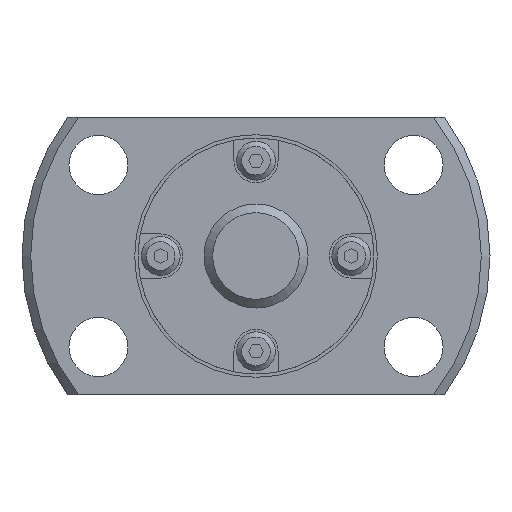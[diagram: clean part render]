
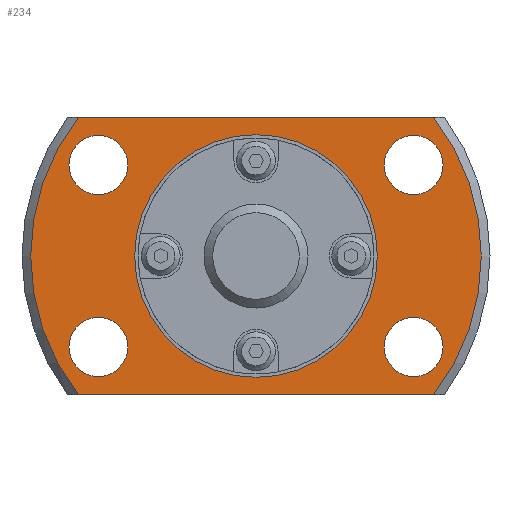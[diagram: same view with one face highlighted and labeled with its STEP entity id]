
A CAD part, left-side view. The second image highlights one B-rep face of the part: STEP entity #234.
In plain terms, the highlighted planar face has unit normal (-1, 0, 0).
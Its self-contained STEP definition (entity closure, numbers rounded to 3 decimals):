
#234 = ADVANCED_FACE( '', ( #427, #428, #429, #430, #431, #432 ), #433, .F. );
#427 = FACE_OUTER_BOUND( '', #679, .T. );
#428 = FACE_BOUND( '', #680, .T. );
#429 = FACE_BOUND( '', #681, .T. );
#430 = FACE_BOUND( '', #682, .T. );
#431 = FACE_BOUND( '', #683, .T. );
#432 = FACE_BOUND( '', #684, .T. );
#433 = PLANE( '', #685 );
#679 = EDGE_LOOP( '', ( #1211, #1212, #1213, #1214 ) );
#680 = EDGE_LOOP( '', ( #1215 ) );
#681 = EDGE_LOOP( '', ( #1216 ) );
#682 = EDGE_LOOP( '', ( #1217 ) );
#683 = EDGE_LOOP( '', ( #1218 ) );
#684 = EDGE_LOOP( '', ( #1219 ) );
#685 = AXIS2_PLACEMENT_3D( '', #1220, #1221, #1222 );
#1211 = ORIENTED_EDGE( '', *, *, #1500, .F. );
#1212 = ORIENTED_EDGE( '', *, *, #1625, .T. );
#1213 = ORIENTED_EDGE( '', *, *, #1626, .F. );
#1214 = ORIENTED_EDGE( '', *, *, #1499, .T. );
#1215 = ORIENTED_EDGE( '', *, *, #1612, .T. );
#1216 = ORIENTED_EDGE( '', *, *, #1614, .T. );
#1217 = ORIENTED_EDGE( '', *, *, #1616, .T. );
#1218 = ORIENTED_EDGE( '', *, *, #1618, .T. );
#1219 = ORIENTED_EDGE( '', *, *, #1627, .T. );
#1220 = CARTESIAN_POINT( '', ( 8., 6.8, 0. ) );
#1221 = DIRECTION( '', ( 1., 0., 0. ) );
#1222 = DIRECTION( '', ( 0., 0., -1. ) );
#1499 = EDGE_CURVE( '', #1712, #1724, #1726, .T. );
#1500 = EDGE_CURVE( '', #1727, #1724, #1728, .T. );
#1612 = EDGE_CURVE( '', #1926, #1926, #1927, .T. );
#1614 = EDGE_CURVE( '', #1930, #1930, #1931, .T. );
#1616 = EDGE_CURVE( '', #1934, #1934, #1935, .T. );
#1618 = EDGE_CURVE( '', #1938, #1938, #1939, .T. );
#1625 = EDGE_CURVE( '', #1727, #1950, #1952, .T. );
#1626 = EDGE_CURVE( '', #1712, #1950, #1953, .T. );
#1627 = EDGE_CURVE( '', #1954, #1954, #1955, .T. );
#1712 = VERTEX_POINT( '', #2066 );
#1724 = VERTEX_POINT( '', #2090 );
#1726 = LINE( '', #2095, #2096 );
#1727 = VERTEX_POINT( '', #2097 );
#1728 = CIRCLE( '', #2098, 13. );
#1926 = VERTEX_POINT( '', #2388 );
#1927 = CIRCLE( '', #2389, 1.7 );
#1930 = VERTEX_POINT( '', #2392 );
#1931 = CIRCLE( '', #2393, 1.7 );
#1934 = VERTEX_POINT( '', #2396 );
#1935 = CIRCLE( '', #2397, 1.7 );
#1938 = VERTEX_POINT( '', #2400 );
#1939 = CIRCLE( '', #2401, 1.7 );
#1950 = VERTEX_POINT( '', #2421 );
#1952 = LINE( '', #2426, #2427 );
#1953 = CIRCLE( '', #2428, 13. );
#1954 = VERTEX_POINT( '', #2429 );
#1955 = CIRCLE( '', #2430, 6.8 );
#2066 = CARTESIAN_POINT( '', ( 8., -10.247, 8. ) );
#2090 = CARTESIAN_POINT( '', ( 8., 10.247, 8. ) );
#2095 = CARTESIAN_POINT( '', ( 8., 6.8, 8. ) );
#2096 = VECTOR( '', #2562, 1000. );
#2097 = CARTESIAN_POINT( '', ( 8., 10.247, -8. ) );
#2098 = AXIS2_PLACEMENT_3D( '', #2563, #2564, #2565 );
#2388 = CARTESIAN_POINT( '', ( 8., -9.093, -6.95 ) );
#2389 = AXIS2_PLACEMENT_3D( '', #2718, #2719, #2720 );
#2392 = CARTESIAN_POINT( '', ( 8., -9.093, 3.55 ) );
#2393 = AXIS2_PLACEMENT_3D( '', #2724, #2725, #2726 );
#2396 = CARTESIAN_POINT( '', ( 8., 9.093, -6.95 ) );
#2397 = AXIS2_PLACEMENT_3D( '', #2730, #2731, #2732 );
#2400 = CARTESIAN_POINT( '', ( 8., 9.093, 3.55 ) );
#2401 = AXIS2_PLACEMENT_3D( '', #2736, #2737, #2738 );
#2421 = CARTESIAN_POINT( '', ( 8., -10.247, -8. ) );
#2426 = CARTESIAN_POINT( '', ( 8., 6.8, -8. ) );
#2427 = VECTOR( '', #2742, 1000. );
#2428 = AXIS2_PLACEMENT_3D( '', #2743, #2744, #2745 );
#2429 = CARTESIAN_POINT( '', ( 8., 0., -6.8 ) );
#2430 = AXIS2_PLACEMENT_3D( '', #2746, #2747, #2748 );
#2562 = DIRECTION( '', ( 0., 1., 0. ) );
#2563 = CARTESIAN_POINT( '', ( 8., 0., 0. ) );
#2564 = DIRECTION( '', ( 1., 0., 0. ) );
#2565 = DIRECTION( '', ( 0., 0., -1. ) );
#2718 = CARTESIAN_POINT( '', ( 8., -9.093, -5.25 ) );
#2719 = DIRECTION( '', ( 1., 0., 0. ) );
#2720 = DIRECTION( '', ( 0., 0., -1. ) );
#2724 = CARTESIAN_POINT( '', ( 8., -9.093, 5.25 ) );
#2725 = DIRECTION( '', ( 1., 0., 0. ) );
#2726 = DIRECTION( '', ( 0., 0., -1. ) );
#2730 = CARTESIAN_POINT( '', ( 8., 9.093, -5.25 ) );
#2731 = DIRECTION( '', ( 1., 0., 0. ) );
#2732 = DIRECTION( '', ( 0., 0., -1. ) );
#2736 = CARTESIAN_POINT( '', ( 8., 9.093, 5.25 ) );
#2737 = DIRECTION( '', ( 1., 0., 0. ) );
#2738 = DIRECTION( '', ( 0., 0., -1. ) );
#2742 = DIRECTION( '', ( 0., -1., 0. ) );
#2743 = CARTESIAN_POINT( '', ( 8., 0., 0. ) );
#2744 = DIRECTION( '', ( 1., 0., 0. ) );
#2745 = DIRECTION( '', ( 0., 0., -1. ) );
#2746 = CARTESIAN_POINT( '', ( 8., 0., 0. ) );
#2747 = DIRECTION( '', ( 1., 0., 0. ) );
#2748 = DIRECTION( '', ( 0., 0., -1. ) );
